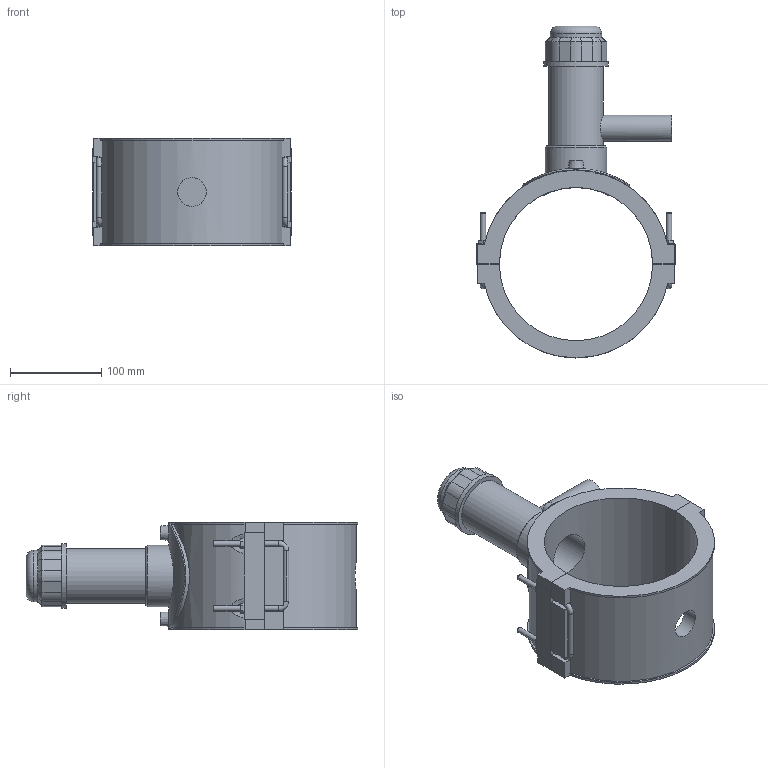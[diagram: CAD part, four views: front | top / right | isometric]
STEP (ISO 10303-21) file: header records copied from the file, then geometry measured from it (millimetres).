
FILE_DESCRIPTION(/* description */ ('PLASSON TAPPING SADDLE 6''''IPS x 1''''CTS'),/* implementation_level */ '2;1');
FILE_NAME(/* name */ 'C:\Dropbox\KIMPROJECTS-Inventor 2019\99-16-3568-Processing Inch\ASTM ElectroFusion 2021\5963B\5963BU03060010.ipt.stp',/* time_stamp */ '2021-08-30T09:56:39+03:00',/* author */ ('KIM'),/* organization */ (''),/* preprocessor_version */ 'ST-DEVELOPER v17.2',/* originating_system */ 'Autodesk Inventor 2019',/* authorisation */ '');
FILE_SCHEMA (('AUTOMOTIVE_DESIGN { 1 0 10303 214 3 1 1 }'));
Length unit declared in the file: millimetre
Products named in the file (1): 5963BU03060010
Bounding box: 217.9 x 363.85 x 118.11 mm (x, y, z)
Volume: 1517221.4 mm3; surface area: 254038.5 mm2
Topology: 1 solids, 1 shells, 198 faces, 533 edges, 350 vertices
Faces by surface type: plane 120, cylinder 53, cone 15, torus 5, bspline 5
Full cylindrical faces by diameter (mm): 4 x2, 6 x7, 10 x2, 22.76 x1, 28.45 x1, 31.36 x1, 49.392 x1, 56.448 x1, 59.976 x1, 67.032 x1, 70.56 x1, 117.6 x1
Entity records: 7484 total; most frequent: CARTESIAN_POINT 2363, ORIENTED_EDGE 1088, DIRECTION 1024, EDGE_CURVE 544, VERTEX_POINT 350, AXIS2_PLACEMENT_3D 346, LINE 332, VECTOR 332
